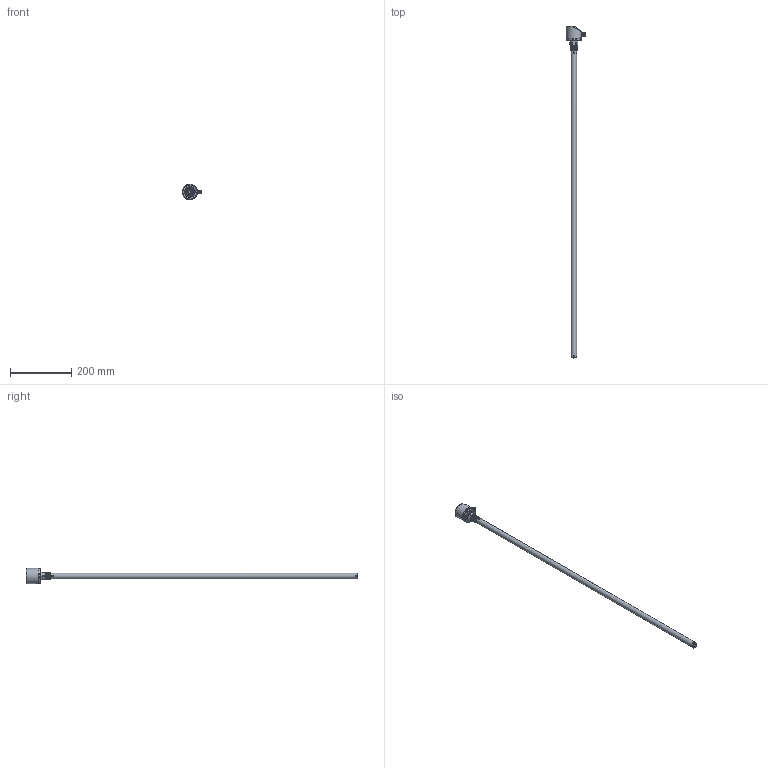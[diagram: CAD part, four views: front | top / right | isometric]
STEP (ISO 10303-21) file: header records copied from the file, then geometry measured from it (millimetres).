
FILE_DESCRIPTION (( 'STEP AP214' ), '1' );
FILE_NAME ('1-2数显电容-1000（同轴）.STEP', '2025-03-11T05:49:55', ( '' ), ( '' ), 'SwSTEP 2.0', 'SolidWorks 2020', '' );
FILE_SCHEMA (( 'AUTOMOTIVE_DESIGN' ));
Length unit declared in the file: millimetre
Products named in the file (9): 恦謫抻芛5; 偌瑩簽; 滅阨諉芛褲极1; 揤薯奻裔; 肮粣奪; 1-2数显电容-1000（同轴）; 揤薯珆尨欶; 抻芛ㄗ蟀哿講ㄘ; PVC躇猾菜
Assembly tree (10 placements, depth 2):
  1-2数显电容-1000（同轴）
    揤薯奻裔
    揤薯珆尨欶
    滅阨諉芛褲极1
    偌瑩簽  x3
    PVC躇猾菜
    恦謫抻芛5
    抻芛ㄗ蟀哿講ㄘ
    肮粣奪
Bounding box: 64 x 1086.5 x 50 mm (x, y, z)
Volume: 158444.2 mm3; surface area: 170755.5 mm2
Topology: 10 solids, 10 shells, 306 faces, 720 edges, 466 vertices
Faces by surface type: plane 126, cylinder 115, cone 39, bspline 11, torus 11, sphere 4
Full cylindrical faces by diameter (mm): 1 x4, 1.2 x3, 1.8 x1, 2 x3, 2.5 x4, 2.8 x1, 4.3 x3, 4.5 x6, 5 x8, 6 x1, 7.2 x1, 8 x1, 8.5 x1, 9.75 x1, 10 x1, 10.49 x1, 10.5 x1, 10.8 x1, 10.9 x1, 11 x2, 12 x1, 16 x1, 18 x1, 18.5 x1, 21 x1, 29.24 x1, 35 x1, 43.9 x1, 45.4 x1, 45.6 x2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
Entity records: 13745 total; most frequent: CARTESIAN_POINT 7166, DIRECTION 1284, ORIENTED_EDGE 1072, EDGE_CURVE 536, AXIS2_PLACEMENT_3D 523, EDGE_LOOP 458, VERTEX_POINT 398, FACE_OUTER_BOUND 344
